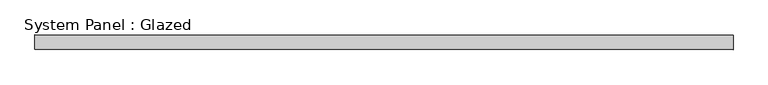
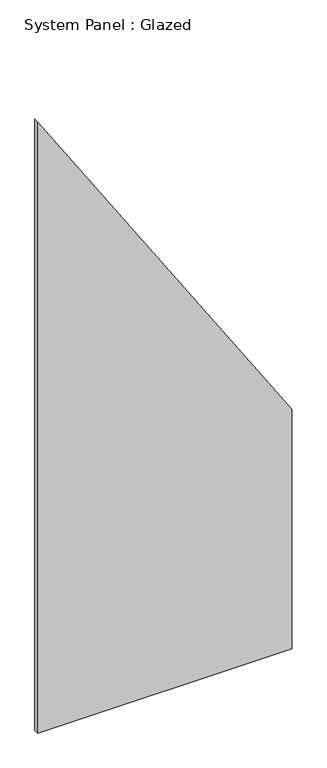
"""IFC4 building model written with IfcOpenShell, lengths in millimetres: plate geometry, System Panel : Glazed."""

from ifc_helpers import new_model, si_unit, frame, origin, place, context, project, spatial, polyline, outline, extrude, source, transform, mapped, element, save


def system_panel_glazed_203c8a8a(model_context):
    return source(origin(), model_context, "Body", "SweptSolid", [
        extrude(outline(polyline([(0.0, -604.8481175), (0.0, 604.8481175), (1206.0761681, 604.8481175), (3077.0285016, -604.8481175), (0.0, -604.8481175)])), frame((0.0, -12.5, 0.0), z_axis=(0.0, 1.0, 0.0), x_axis=(0.0, 0.0, 1.0)), (0.0, 0.0, 1.0), 25.0),
    ])


if __name__ == "__main__":
    model = new_model("IFC4")
    model_context = context("Model", 3, world=origin())
    ifc_project = project(units=[si_unit("LENGTHUNIT", "METRE", prefix="MILLI")], contexts=[model_context])
    site = spatial("IfcSite", under=ifc_project)
    building = spatial("IfcBuilding", under=site)
    placement = place(None, origin())
    system_panel_glazed_shape = system_panel_glazed_203c8a8a(model_context)
    element("IfcPlate", 1, ObjectType="System Panel : Glazed", at=placement, inside=building, context=model_context, shape_type="MappedRepresentation", body=[
        mapped(system_panel_glazed_shape, transform((0.0, 0.0, 0.0), x_axis=(1.0, 0.0, 0.0), y_axis=(0.0, 1.0, 0.0), z_axis=(0.0, 0.0, 1.0))),
    ])
    save(model, "model.ifc")
